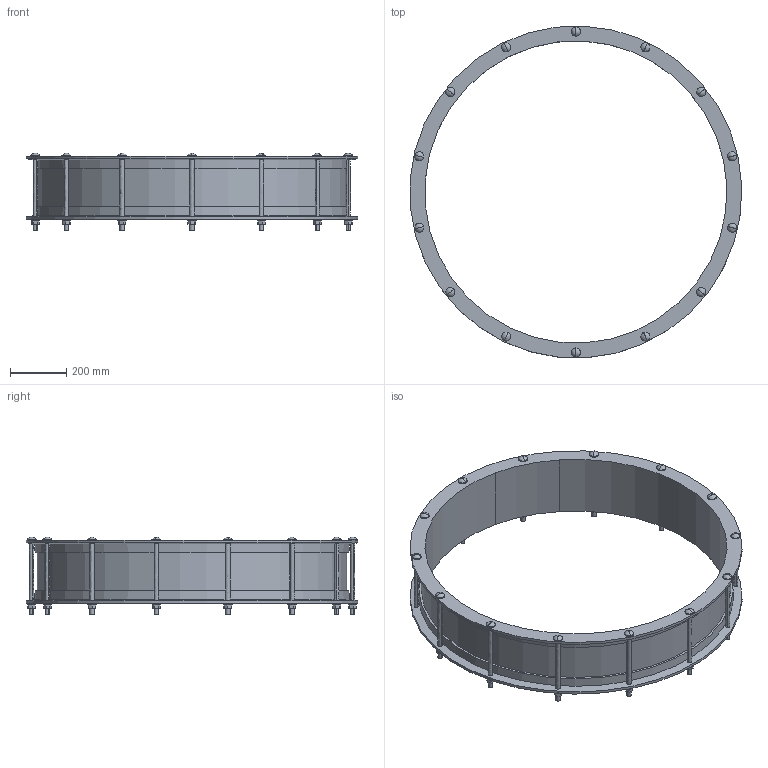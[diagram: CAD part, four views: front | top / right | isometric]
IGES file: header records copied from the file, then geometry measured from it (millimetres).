
Start section:  PTC IGES file: VJC_1067.igs
Global section: file name: VJC_1067.igs; native system: Creo Parametric by PTC Inc.; preprocessor: 2016130; author: mfairey; organization: Unknown; date: 20181206.142515; units: millimetre
Bounding box: 1174.19 x 1174.4 x 276 mm (x, y, z)
Surface area: 2337738.9 mm2 (no closed solid volume)
Topology: 0 solids, 0 shells, 286 faces, 1340 edges, 1312 vertices
Faces by surface type: revolution 156, bspline 130
